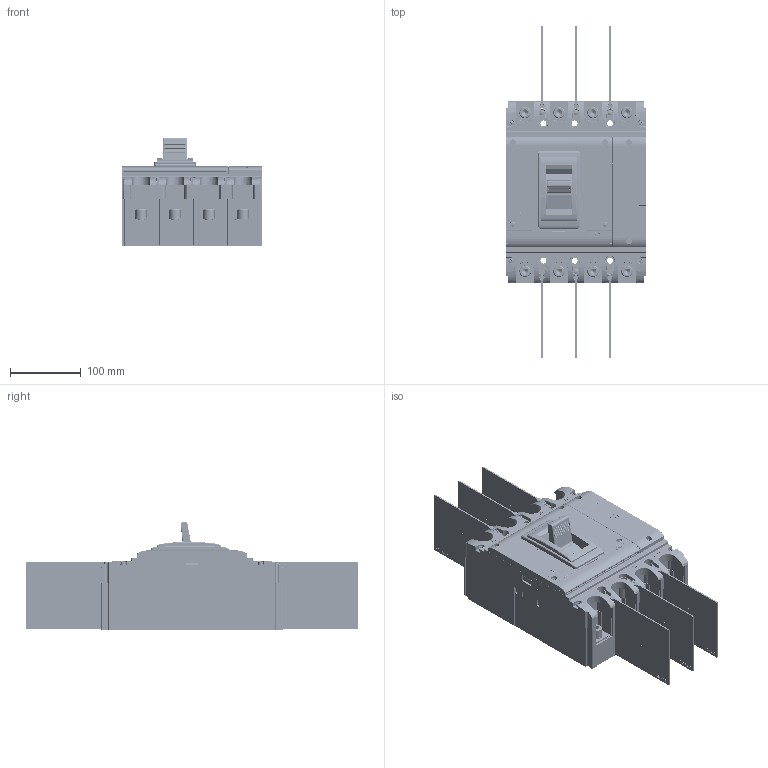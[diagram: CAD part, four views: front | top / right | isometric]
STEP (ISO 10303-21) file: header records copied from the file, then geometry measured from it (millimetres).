
FILE_DESCRIPTION((''),'2;1');
FILE_NAME('2TZD_259_6101_1_SW0001','2023-12-14T15:30:41',('zhenghaojing'),(''),'CREO PARAMETRIC BY PTC INC, 2020354','CREO PARAMETRIC BY PTC INC, 2020354','');
FILE_SCHEMA(('CONFIG_CONTROL_DESIGN'));
Products named in the file (1): 2TZD_259_6101_1_SW0001
Bounding box: 198 x 469 x 152.9 mm (x, y, z)
Volume: 1958956.8 mm3; surface area: 953186.2 mm2
Topology: 5 solids, 5 shells, 9307 faces, 25553 edges, 16503 vertices
Faces by surface type: plane 6956, cylinder 1685, bspline 228, cone 154, sphere 144, torus 76, extrusion 64
Entity records: 334126 total; most frequent: CARTESIAN_POINT 97292, ORIENTED_EDGE 51074, DIRECTION 46405, EDGE_CURVE 25537, VECTOR 20507, LINE 20443, VERTEX_POINT 16503, AXIS2_PLACEMENT_3D 12949
